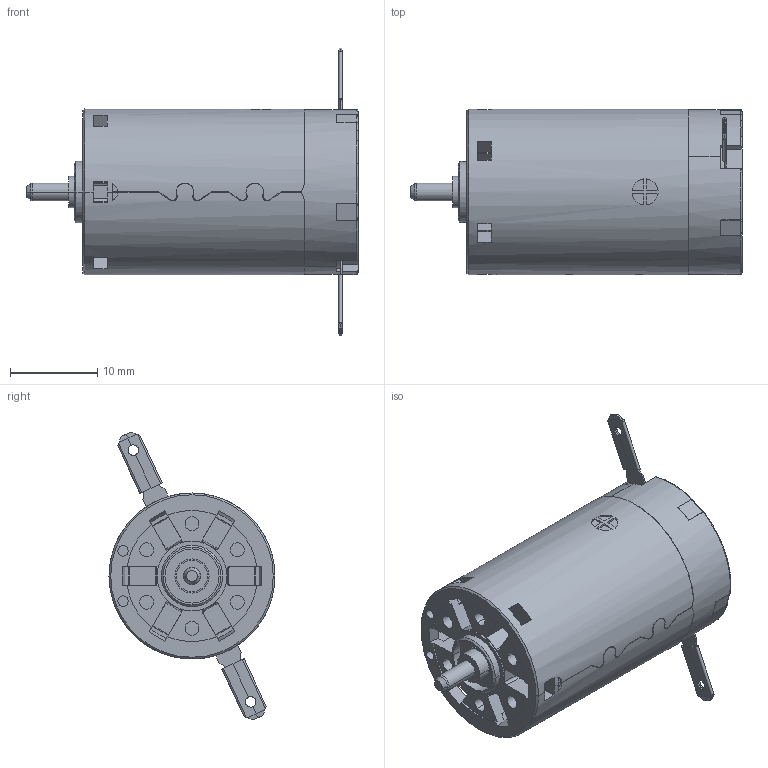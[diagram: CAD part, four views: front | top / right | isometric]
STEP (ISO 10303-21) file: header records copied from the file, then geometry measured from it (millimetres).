
FILE_DESCRIPTION((''),'2;1');
FILE_NAME('249982_AMAX19_GB_2_5W_SL_1WE','2016-10-14T',('mmagvisi'),(''),'CREO PARAMETRIC BY PTC INC, 2016050','CREO PARAMETRIC BY PTC INC, 2016050','');
FILE_SCHEMA(('CONFIG_CONTROL_DESIGN'));
Length unit declared in the file: millimetre
Products named in the file (1): 249982_AMAX19_GB_2_5W_SL_1WE
Bounding box: 38 x 19 x 32.95 mm (x, y, z)
Volume: 8699.4 mm3; surface area: 3174.3 mm2
Topology: 1 solids, 6 shells, 401 faces, 1082 edges, 704 vertices
Faces by surface type: plane 292, cylinder 95, torus 8, cone 6
Entity records: 17278 total; most frequent: CARTESIAN_POINT 2997, ORIENTED_EDGE 2164, DIRECTION 1974, PRESENTATION_STYLE_ASSIGNMENT 1193, STYLED_ITEM 1083, CURVE_STYLE 1082, EDGE_CURVE 1082, VECTOR 792
